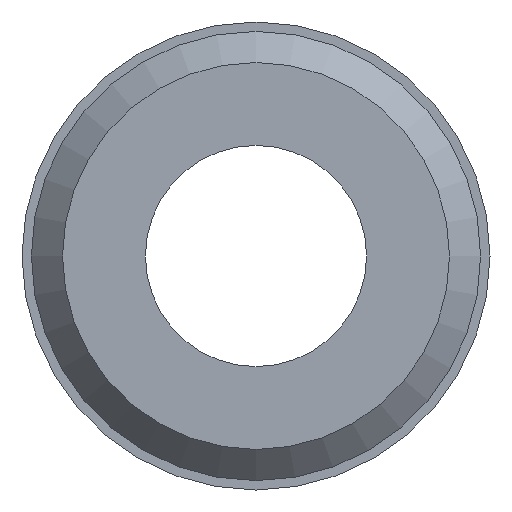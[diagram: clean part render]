
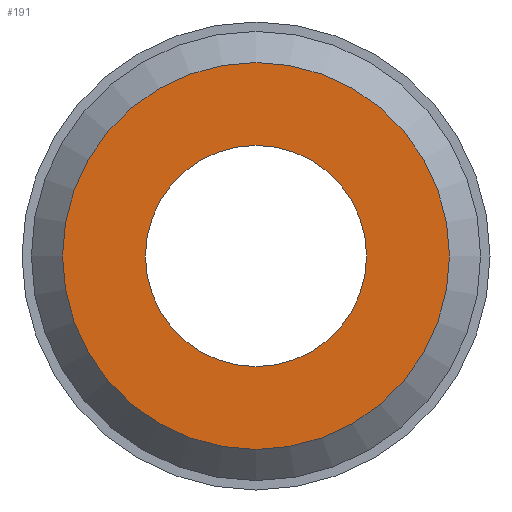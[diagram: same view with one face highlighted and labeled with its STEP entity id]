
A CAD part, front view. The second image highlights one B-rep face of the part: STEP entity #191.
In plain terms, the highlighted planar face has unit normal (0, -1, 0).
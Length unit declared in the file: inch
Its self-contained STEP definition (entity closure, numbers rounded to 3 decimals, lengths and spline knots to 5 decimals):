
#17=FACE_BOUND('',#43,.T.);
#21=PLANE('',#220);
#31=FACE_OUTER_BOUND('',#42,.T.);
#42=EDGE_LOOP('',(#144));
#43=EDGE_LOOP('',(#145,#146));
#65=CIRCLE('',#215,0.0525);
#69=CIRCLE('',#221,0.03);
#70=CIRCLE('',#222,0.03);
#87=VERTEX_POINT('',#322);
#91=VERTEX_POINT('',#334);
#92=VERTEX_POINT('',#335);
#107=EDGE_CURVE('',#87,#87,#65,.T.);
#113=EDGE_CURVE('',#91,#92,#69,.T.);
#114=EDGE_CURVE('',#92,#91,#70,.T.);
#144=ORIENTED_EDGE('',*,*,#107,.F.);
#145=ORIENTED_EDGE('',*,*,#113,.F.);
#146=ORIENTED_EDGE('',*,*,#114,.F.);
#191=ADVANCED_FACE('',(#31,#17),#21,.T.);
#215=AXIS2_PLACEMENT_3D('',#323,#251,#252);
#220=AXIS2_PLACEMENT_3D('',#333,#263,#264);
#221=AXIS2_PLACEMENT_3D('',#336,#265,#266);
#222=AXIS2_PLACEMENT_3D('',#337,#267,#268);
#251=DIRECTION('center_axis',(0.,1.,0.));
#252=DIRECTION('ref_axis',(0.,0.,1.));
#263=DIRECTION('center_axis',(0.,-1.,0.));
#264=DIRECTION('ref_axis',(0.,0.,-1.));
#265=DIRECTION('center_axis',(0.,-1.,0.));
#266=DIRECTION('ref_axis',(1.,0.,0.));
#267=DIRECTION('center_axis',(0.,-1.,0.));
#268=DIRECTION('ref_axis',(1.,0.,0.));
#322=CARTESIAN_POINT('',(0.,0.,-0.0525));
#323=CARTESIAN_POINT('Origin',(0.,0.,0.));
#333=CARTESIAN_POINT('Origin',(0.,0.,-0.03));
#334=CARTESIAN_POINT('',(0.,0.,-0.03));
#335=CARTESIAN_POINT('',(0.,0.,0.03));
#336=CARTESIAN_POINT('Origin',(0.,0.,0.));
#337=CARTESIAN_POINT('Origin',(0.,0.,0.));
